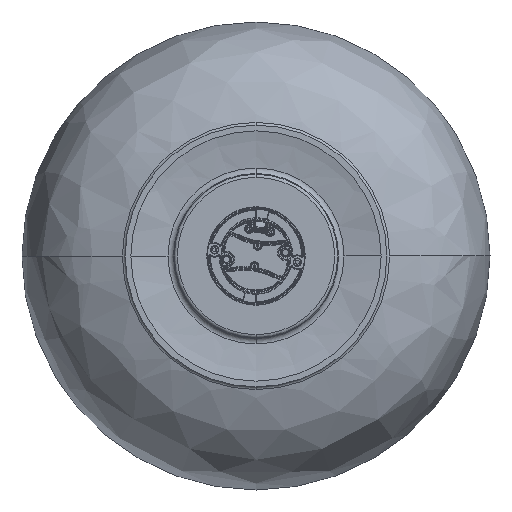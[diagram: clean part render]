
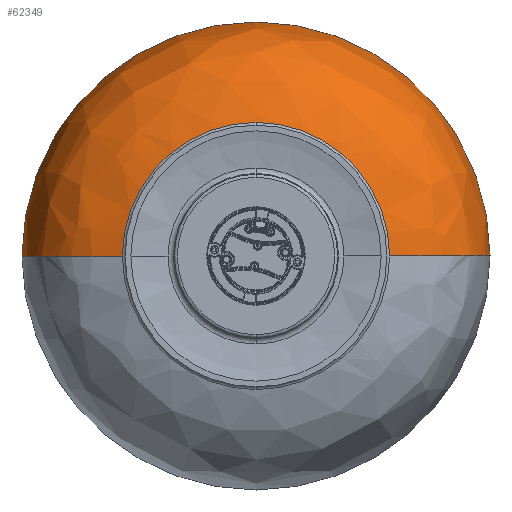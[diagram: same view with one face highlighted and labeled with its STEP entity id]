
A CAD part, front view. The second image highlights one B-rep face of the part: STEP entity #62349.
In plain terms, the highlighted free-form (B-spline) face has degree [3, 3] with [7, 4] control points.
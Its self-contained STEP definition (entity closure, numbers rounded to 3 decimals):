
#4083 = CARTESIAN_POINT ( 'NONE',  ( 202., -138.8, 0. ) ) ;
#4839 = CARTESIAN_POINT ( 'NONE',  ( -115.274, -276.762, 230.547 ) ) ;
#5200 = CARTESIAN_POINT ( 'NONE',  ( 115.274, -276.762, 230.547 ) ) ;
#6787 = CARTESIAN_POINT ( 'NONE',  ( 0., -276.762, 115.274 ) ) ;
#8198 = CARTESIAN_POINT ( 'NONE',  ( 117.689, -276.159, 0. ) ) ;
#9735 = CARTESIAN_POINT ( 'NONE',  ( -202.052, -159.583, 0. ) ) ;
#9744 = CARTESIAN_POINT ( 'NONE',  ( -115.274, -276.762, 0. ) ) ;
#10106 = CARTESIAN_POINT ( 'NONE',  ( -202.052, -159.583, 0. ) ) ;
#10797 = ORIENTED_EDGE ( 'NONE', *, *, #14863, .T. ) ;
#12451 = CIRCLE ( 'NONE', #67473, 115.274 ) ;
#13132 = CARTESIAN_POINT ( 'NONE',  ( 115.274, -276.762, 0. ) ) ;
#13297 = CARTESIAN_POINT ( 'NONE',  ( 202., -138.8, 0. ) ) ;
#13684 = VERTEX_POINT ( 'NONE', #50198 ) ;
#14863 = EDGE_CURVE ( 'NONE', #54068, #55266, #41410, .T. ) ;
#21030 = CARTESIAN_POINT ( 'NONE',  ( 115.274, -276.762, 0. ) ) ;
#21403 = CARTESIAN_POINT ( 'NONE',  ( -202., -138.8, 0. ) ) ;
#21758 = CARTESIAN_POINT ( 'NONE',  ( 0., -276.762, 0. ) ) ;
#21767 = CARTESIAN_POINT ( 'NONE',  ( -117.689, -276.159, 0. ) ) ;
#22496 = CARTESIAN_POINT ( 'NONE',  ( 202.052, -159.583, 0. ) ) ;
#23671 = CARTESIAN_POINT ( 'NONE',  ( 201.053, -198.128, 0. ) ) ;
#23966 = ORIENTED_EDGE ( 'NONE', *, *, #63749, .T. ) ;
#24493 = ORIENTED_EDGE ( 'NONE', *, *, #39811, .F. ) ;
#25267 = ORIENTED_EDGE ( 'NONE', *, *, #43207, .T. ) ;
#28103 = CARTESIAN_POINT ( 'NONE',  ( -201.053, -198.128, 402.107 ) ) ;
#28936 =( BOUNDED_SURFACE ( )  B_SPLINE_SURFACE ( 3, 3, ( 
 ( #21030, #5200, #4839, #49774 ),
 ( #34053, #32936, #50147, #21767 ),
 ( #56931, #39275, #43748, #56567 ),
 ( #38879, #33324, #56185, #50519 ),
 ( #73444, #67808, #28103, #73831 ),
 ( #22496, #45238, #66686, #9735 ),
 ( #4083, #72711, #44112, #21403 ) ),
 .UNSPECIFIED., .F., .F., .T. ) 
 B_SPLINE_SURFACE_WITH_KNOTS ( ( 4, 1, 1, 1, 4 ),
 ( 4, 4 ),
 ( 0.172, 0.189, 0.329, 0.437, 0.579 ),
 ( 0., 1. ),
 .UNSPECIFIED. ) 
 GEOMETRIC_REPRESENTATION_ITEM ( )  RATIONAL_B_SPLINE_SURFACE ( (
 ( 1., 0.333, 0.333, 1.),
 ( 1., 0.333, 0.333, 1.),
 ( 1., 0.333, 0.333, 1.),
 ( 1., 0.333, 0.333, 1.),
 ( 1., 0.333, 0.333, 1.),
 ( 1., 0.333, 0.333, 1.),
 ( 1., 0.333, 0.333, 1.) ) ) 
 REPRESENTATION_ITEM ( '' )  SURFACE ( )  );
#29608 = CARTESIAN_POINT ( 'NONE',  ( 177.993, -251.222, 0. ) ) ;
#29867 = CARTESIAN_POINT ( 'NONE',  ( -115.274, -276.762, 0. ) ) ;
#29959 = CARTESIAN_POINT ( 'NONE',  ( 202.052, -159.583, 0. ) ) ;
#30288 = B_SPLINE_CURVE_WITH_KNOTS ( 'NONE', 3,
 ( #9744, #67065, #61448, #67427, #62560, #10106, #32943 ),
 .UNSPECIFIED., .F., .F.,
 ( 4, 1, 1, 1, 4 ),
 ( 0.172, 0.189, 0.329, 0.437, 0.579 ),
 .UNSPECIFIED. ) ;
#31624 = CIRCLE ( 'NONE', #54329, 202. ) ;
#32936 = CARTESIAN_POINT ( 'NONE',  ( 117.689, -276.159, 235.377 ) ) ;
#32943 = CARTESIAN_POINT ( 'NONE',  ( -202., -138.8, 0. ) ) ;
#33324 = CARTESIAN_POINT ( 'NONE',  ( 177.993, -251.222, 355.986 ) ) ;
#33695 = FACE_OUTER_BOUND ( 'NONE', #47501, .T. ) ;
#34053 = CARTESIAN_POINT ( 'NONE',  ( 117.689, -276.159, 0. ) ) ;
#38879 = CARTESIAN_POINT ( 'NONE',  ( 177.993, -251.222, 0. ) ) ;
#39275 = CARTESIAN_POINT ( 'NONE',  ( 140.583, -269.96, 281.167 ) ) ;
#39811 = EDGE_CURVE ( 'NONE', #54068, #49071, #30288, .T. ) ;
#39988 = DIRECTION ( 'NONE',  ( 0., 1., 0. ) ) ;
#40803 = CARTESIAN_POINT ( 'NONE',  ( 202., -138.8, 0. ) ) ;
#40844 = DIRECTION ( 'NONE',  ( 0., 0., -1. ) ) ;
#41410 = CIRCLE ( 'NONE', #53437, 115.274 ) ;
#43207 = EDGE_CURVE ( 'NONE', #55266, #13684, #12451, .T. ) ;
#43748 = CARTESIAN_POINT ( 'NONE',  ( -140.583, -269.96, 281.167 ) ) ;
#44112 = CARTESIAN_POINT ( 'NONE',  ( -202., -138.8, 404. ) ) ;
#45238 = CARTESIAN_POINT ( 'NONE',  ( 202.052, -159.583, 404.103 ) ) ;
#47501 = EDGE_LOOP ( 'NONE', ( #25267, #51194, #23966, #24493, #10797 ) ) ;
#49071 = VERTEX_POINT ( 'NONE', #51245 ) ;
#49376 = CARTESIAN_POINT ( 'NONE',  ( 0., -276.762, 0. ) ) ;
#49774 = CARTESIAN_POINT ( 'NONE',  ( -115.274, -276.762, 0. ) ) ;
#50147 = CARTESIAN_POINT ( 'NONE',  ( -117.689, -276.159, 235.377 ) ) ;
#50198 = CARTESIAN_POINT ( 'NONE',  ( 115.274, -276.762, 0. ) ) ;
#50519 = CARTESIAN_POINT ( 'NONE',  ( -177.993, -251.222, 0. ) ) ;
#51194 = ORIENTED_EDGE ( 'NONE', *, *, #54634, .T. ) ;
#51245 = CARTESIAN_POINT ( 'NONE',  ( -202., -138.8, 0. ) ) ;
#51284 = VERTEX_POINT ( 'NONE', #13297 ) ;
#53437 = AXIS2_PLACEMENT_3D ( 'NONE', #49376, #55761, #62157 ) ;
#54068 = VERTEX_POINT ( 'NONE', #29867 ) ;
#54329 = AXIS2_PLACEMENT_3D ( 'NONE', #63031, #69043, #40844 ) ;
#54634 = EDGE_CURVE ( 'NONE', #13684, #51284, #61394, .T. ) ;
#55266 = VERTEX_POINT ( 'NONE', #6787 ) ;
#55761 = DIRECTION ( 'NONE',  ( 0., 1., 0. ) ) ;
#56185 = CARTESIAN_POINT ( 'NONE',  ( -177.993, -251.222, 355.986 ) ) ;
#56567 = CARTESIAN_POINT ( 'NONE',  ( -140.583, -269.96, 0. ) ) ;
#56931 = CARTESIAN_POINT ( 'NONE',  ( 140.583, -269.96, 0. ) ) ;
#58489 = CARTESIAN_POINT ( 'NONE',  ( 140.583, -269.96, 0. ) ) ;
#61394 = B_SPLINE_CURVE_WITH_KNOTS ( 'NONE', 3,
 ( #13132, #8198, #58489, #29608, #23671, #29959, #40803 ),
 .UNSPECIFIED., .F., .F.,
 ( 4, 1, 1, 1, 4 ),
 ( 0.172, 0.189, 0.329, 0.437, 0.579 ),
 .UNSPECIFIED. ) ;
#61448 = CARTESIAN_POINT ( 'NONE',  ( -140.583, -269.96, 0. ) ) ;
#62157 = DIRECTION ( 'NONE',  ( 0., 0., -1. ) ) ;
#62349 = ADVANCED_FACE ( 'NONE', ( #33695 ), #28936, .T. ) ;
#62560 = CARTESIAN_POINT ( 'NONE',  ( -201.053, -198.128, 0. ) ) ;
#63031 = CARTESIAN_POINT ( 'NONE',  ( 0., -138.8, 0. ) ) ;
#63749 = EDGE_CURVE ( 'NONE', #51284, #49071, #31624, .T. ) ;
#66686 = CARTESIAN_POINT ( 'NONE',  ( -202.052, -159.583, 404.103 ) ) ;
#67065 = CARTESIAN_POINT ( 'NONE',  ( -117.689, -276.159, 0. ) ) ;
#67427 = CARTESIAN_POINT ( 'NONE',  ( -177.993, -251.222, 0. ) ) ;
#67473 = AXIS2_PLACEMENT_3D ( 'NONE', #21758, #39988, #73818 ) ;
#67808 = CARTESIAN_POINT ( 'NONE',  ( 201.053, -198.128, 402.107 ) ) ;
#69043 = DIRECTION ( 'NONE',  ( 0., -1., 0. ) ) ;
#72711 = CARTESIAN_POINT ( 'NONE',  ( 202., -138.8, 404. ) ) ;
#73444 = CARTESIAN_POINT ( 'NONE',  ( 201.053, -198.128, 0. ) ) ;
#73818 = DIRECTION ( 'NONE',  ( 0., 0., -1. ) ) ;
#73831 = CARTESIAN_POINT ( 'NONE',  ( -201.053, -198.128, 0. ) ) ;
